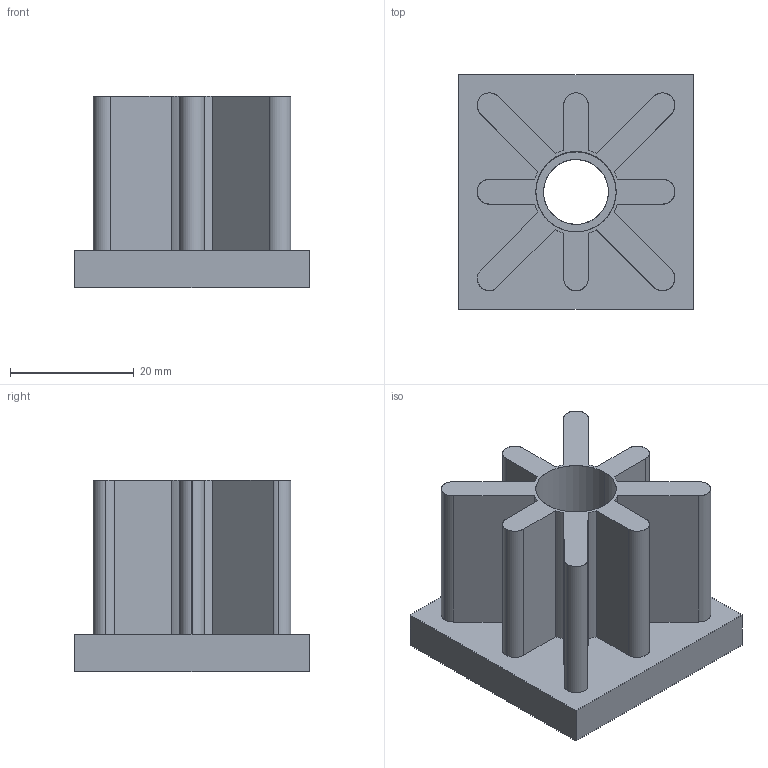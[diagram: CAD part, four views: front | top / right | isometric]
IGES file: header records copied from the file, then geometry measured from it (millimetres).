
Start section: SolidWorks IGES file using analytic representation for surfaces
Global section: file name: C:\Documents and Settings\URETIM3\Desktop\yeni katalog tolgay düzenli\A kataloðu\230 kare profil klavuzlari\230 kare profil klavuzlari montaj+part\230 381 230mntj.IGS; native system: SolidWorks 2006 by SolidWorks Corporation; preprocessor: SolidWorks 2006 by SolidWorks Corporation; author: URETIM3; date: 060912.092431; units: millimetre
Bounding box: 38 x 38 x 31 mm (x, y, z)
Surface area: 11600.4 mm2 (no closed solid volume)
Topology: 0 solids, 0 shells, 51 faces, 608 edges, 608 vertices
Faces by surface type: revolution 27, bspline 24
